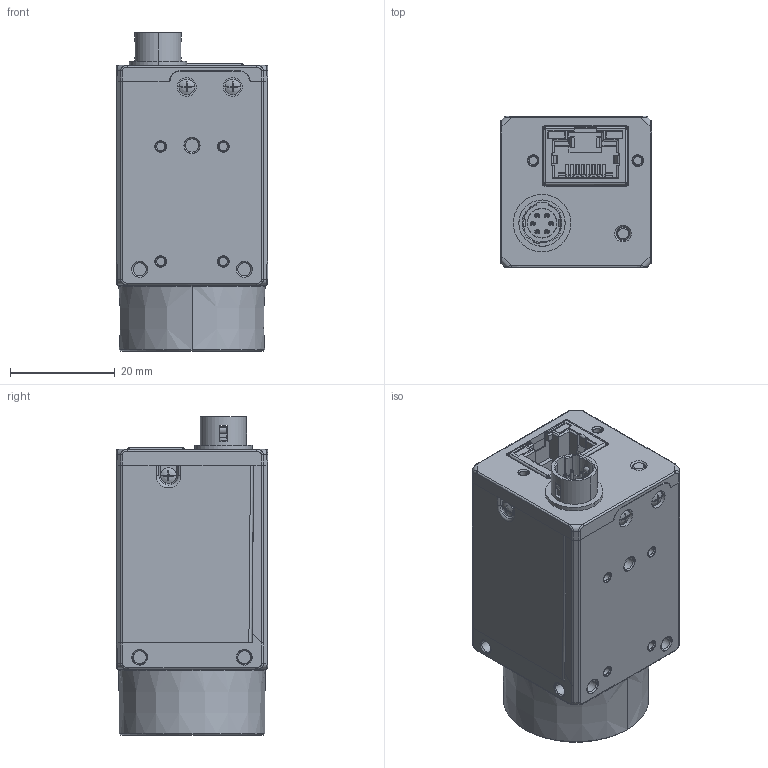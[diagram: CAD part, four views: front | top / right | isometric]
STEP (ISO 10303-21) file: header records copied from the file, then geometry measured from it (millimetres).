
FILE_DESCRIPTION((''),'2;1');
FILE_NAME('00-CH120-10GMCUMC-V4_0_ASM','2023-01-13T18:46:38',('sunli10'),(''),'CREO PARAMETRIC BY PTC INC, 2020044','CREO PARAMETRIC BY PTC INC, 2020044','');
FILE_SCHEMA(('CONFIG_CONTROL_DESIGN'));
Products named in the file (1): 00-CH120-10GMCUMC-V4_0_ASM
Bounding box: 29.03 x 29 x 61 mm (x, y, z)
Volume: 34902.2 mm3; surface area: 24173.2 mm2
Topology: 3 solids, 52 shells, 2722 faces, 7523 edges, 4834 vertices
Faces by surface type: plane 1438, cylinder 823, bspline 258, cone 86, torus 84, extrusion 18, sphere 15
Entity records: 104416 total; most frequent: CARTESIAN_POINT 37410, ORIENTED_EDGE 14894, DIRECTION 12595, EDGE_CURVE 7523, VERTEX_POINT 4834, VECTOR 4423, LINE 4405, AXIS2_PLACEMENT_3D 4086
